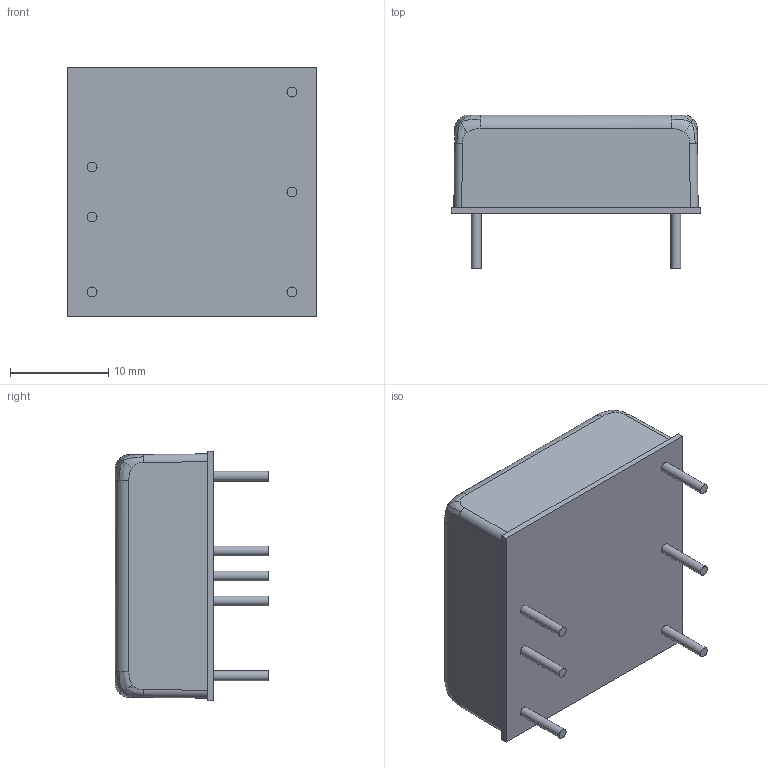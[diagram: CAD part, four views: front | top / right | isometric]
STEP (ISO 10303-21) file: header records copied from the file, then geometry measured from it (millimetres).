
FILE_DESCRIPTION(/* description */ ('Unknown'),/* implementation_level */ '2;1');
FILE_NAME(/* name */ 'S(D)KMW40',/* time_stamp */ '2025-08-29T11:10:10+08:00',/* author */ ('Unknown'),/* organization */ ('Unknown'),/* preprocessor_version */ 'ST-DEVELOPER v16.7',/* originating_system */ 'Solid Edge',/* authorisation */ 'Unknown');
FILE_SCHEMA (('AUTOMOTIVE_DESIGN {1 0 10303 214 3 1 1}'));
Length unit declared in the file: millimetre
Products named in the file (1): S(D)KMW40
Bounding box: 25.4 x 15.6 x 25.4 mm (x, y, z)
Volume: 981.6 mm3; surface area: 4264.6 mm2
Topology: 1 solids, 2 shells, 93 faces, 228 edges, 146 vertices
Faces by surface type: bspline 48, plane 23, cylinder 22
Full cylindrical faces by diameter (mm): 1 x6
Entity records: 5766 total; most frequent: CARTESIAN_POINT 3330, ORIENTED_EDGE 432, EDGE_CURVE 216, DIRECTION 216, VERTEX_POINT 140, B_SPLINE_CURVE_WITH_KNOTS 128, EDGE_LOOP 106, FACE_BOUND 106
